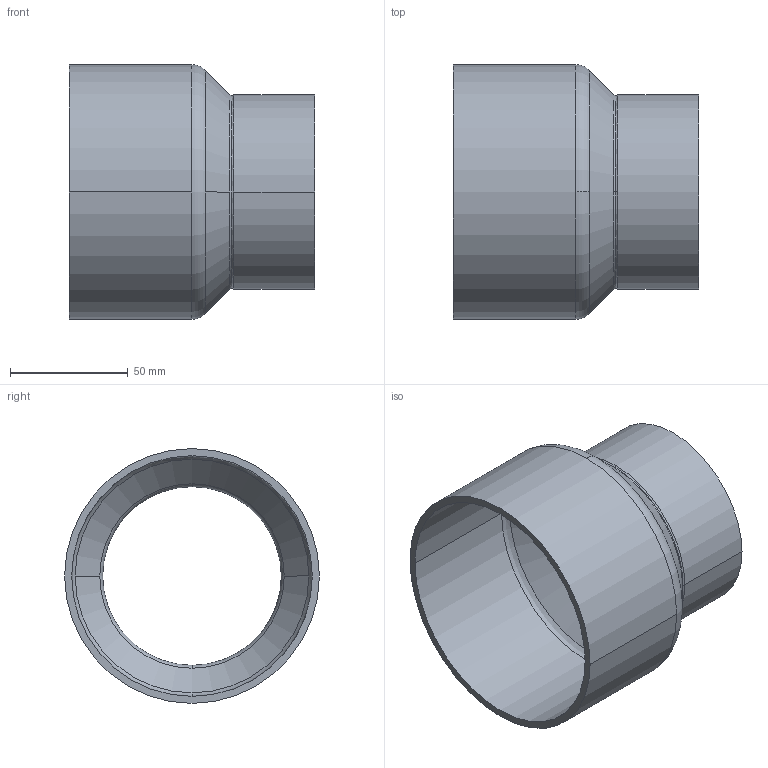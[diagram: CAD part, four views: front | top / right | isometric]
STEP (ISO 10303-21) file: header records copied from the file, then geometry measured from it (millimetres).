
FILE_DESCRIPTION((''),'2;1');
FILE_NAME('G:\Technics\CAD\Bauteile\Serie 15243\1524310876.stp','2005-10-21T12:49:55',('boden'),(''),'Autodesk Inventor 8','Autodesk Inventor 8','');
FILE_SCHEMA(('AUTOMOTIVE_DESIGN { 1 0 10303 214 1 1 1 1 }'));
Length unit declared in the file: millimetre
Products named in the file (1): 1524310876
Bounding box: 103.9 x 108 x 108 mm (x, y, z)
Volume: 96794 mm3; surface area: 66269.7 mm2
Topology: 1 solids, 1 shells, 26 faces, 68 edges, 44 vertices
Faces by surface type: cylinder 8, torus 6, bspline 6, cone 4, plane 2
Entity records: 1103 total; most frequent: CARTESIAN_POINT 403, DIRECTION 166, ORIENTED_EDGE 136, AXIS2_PLACEMENT_3D 77, EDGE_CURVE 68, CIRCLE 56, VERTEX_POINT 44, EDGE_LOOP 28
